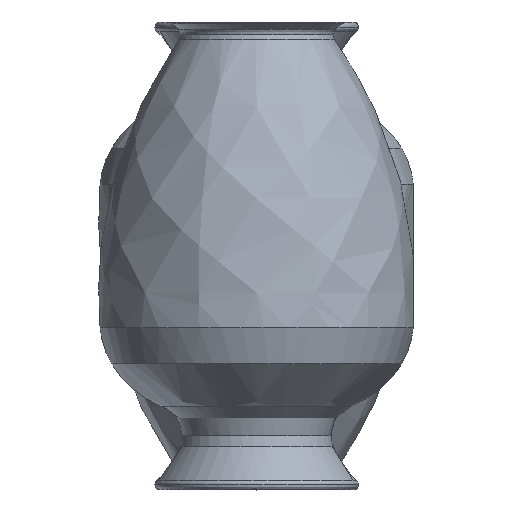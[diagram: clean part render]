
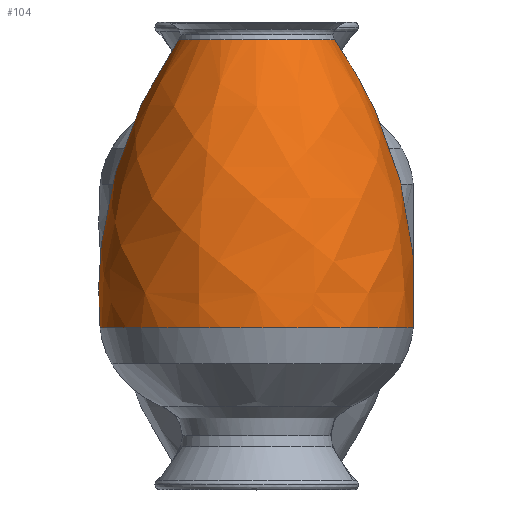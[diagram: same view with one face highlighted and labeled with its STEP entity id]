
A CAD part, front view. The second image highlights one B-rep face of the part: STEP entity #104.
In plain terms, the highlighted free-form (B-spline) face has degree [2, 2] with [9, 5] control points.
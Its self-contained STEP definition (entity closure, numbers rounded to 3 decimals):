
#104=ADVANCED_FACE('',(#198),#1229,.T.);
#198=FACE_OUTER_BOUND('',#292,.T.);
#292=EDGE_LOOP('',(#567,#568,#569,#570));
#567=ORIENTED_EDGE('',*,*,#834,.F.);
#568=ORIENTED_EDGE('',*,*,#836,.T.);
#569=ORIENTED_EDGE('',*,*,#837,.T.);
#570=ORIENTED_EDGE('',*,*,#838,.T.);
#834=EDGE_CURVE('',#1149,#1150,#1018,.T.);
#836=EDGE_CURVE('',#1149,#1151,#1020,.T.);
#837=EDGE_CURVE('',#1151,#1152,#1021,.T.);
#838=EDGE_CURVE('',#1152,#1150,#1022,.T.);
#1018=(
BOUNDED_CURVE()
B_SPLINE_CURVE(2,(#9367,#9368,#9369,#9370,#9371),.UNSPECIFIED.,.F.,.F.)
B_SPLINE_CURVE_WITH_KNOTS((3,2,3),(-65.495,-32.748,
0.),.UNSPECIFIED.)
CURVE()
GEOMETRIC_REPRESENTATION_ITEM()
RATIONAL_B_SPLINE_CURVE((1.,0.707,1.,0.707,1.))
REPRESENTATION_ITEM('')
);
#1020=(
BOUNDED_CURVE()
B_SPLINE_CURVE(2,(#9375,#9376,#9377),.UNSPECIFIED.,.F.,.F.)
B_SPLINE_CURVE_WITH_KNOTS((3,3),(0.,40.53),.UNSPECIFIED.)
CURVE()
GEOMETRIC_REPRESENTATION_ITEM()
RATIONAL_B_SPLINE_CURVE((1.,0.941,1.))
REPRESENTATION_ITEM('')
);
#1021=(
BOUNDED_CURVE()
B_SPLINE_CURVE(2,(#9378,#9379,#9380,#9381,#9382),.UNSPECIFIED.,.F.,.F.)
B_SPLINE_CURVE_WITH_KNOTS((3,2,3),(-32.558,-16.279,
0.),.UNSPECIFIED.)
CURVE()
GEOMETRIC_REPRESENTATION_ITEM()
RATIONAL_B_SPLINE_CURVE((1.,0.707,1.,0.707,1.))
REPRESENTATION_ITEM('')
);
#1022=(
BOUNDED_CURVE()
B_SPLINE_CURVE(2,(#9383,#9384,#9385),.UNSPECIFIED.,.F.,.F.)
B_SPLINE_CURVE_WITH_KNOTS((3,3),(-40.53,0.),.UNSPECIFIED.)
CURVE()
GEOMETRIC_REPRESENTATION_ITEM()
RATIONAL_B_SPLINE_CURVE((1.,0.941,1.))
REPRESENTATION_ITEM('')
);
#1149=VERTEX_POINT('',#9116);
#1150=VERTEX_POINT('',#9117);
#1151=VERTEX_POINT('',#9118);
#1152=VERTEX_POINT('',#9119);
#1229=(
BOUNDED_SURFACE()
B_SPLINE_SURFACE(2,2,((#6640,#6641,#6642,#6643,#6644),(#6645,#6646,#6647,
#6648,#6649),(#6650,#6651,#6652,#6653,#6654),(#6655,#6656,#6657,#6658,#6659),
(#6660,#6661,#6662,#6663,#6664),(#6665,#6666,#6667,#6668,#6669),(#6670,
#6671,#6672,#6673,#6674),(#6675,#6676,#6677,#6678,#6679),(#6680,#6681,#6682,
#6683,#6684)),.UNSPECIFIED.,.T.,.F.,.F.)
B_SPLINE_SURFACE_WITH_KNOTS((3,2,2,2,3),(3,2,3),(-235.194,-176.396,
-117.597,-58.799,0.),(0.,51.213,102.427),
 .UNSPECIFIED.)
GEOMETRIC_REPRESENTATION_ITEM()
RATIONAL_B_SPLINE_SURFACE(((1.,0.906,1.,0.906,1.),
(0.707,0.64,0.707,0.64,
0.707),(1.,0.906,1.,0.906,1.),(0.707,
0.64,0.707,0.64,0.707),
(1.,0.906,1.,0.906,1.),(0.707,0.64,
0.707,0.64,0.707),(1.,0.906,
1.,0.906,1.),(0.707,0.64,0.707,
0.64,0.707),(1.,0.906,1.,0.906,
1.)))
REPRESENTATION_ITEM('')
SURFACE()
);
#6640=CARTESIAN_POINT('',(1.523,-37.68,78.345));
#6641=CARTESIAN_POINT('',(1.523,-16.648,60.815));
#6642=CARTESIAN_POINT('',(1.523,-16.648,33.434));
#6643=CARTESIAN_POINT('',(1.523,-16.648,6.054));
#6644=CARTESIAN_POINT('',(1.523,-37.68,-11.476));
#6645=CARTESIAN_POINT('',(1.523,-37.68,78.345));
#6646=CARTESIAN_POINT('',(22.556,-16.648,60.815));
#6647=CARTESIAN_POINT('',(22.556,-16.648,33.434));
#6648=CARTESIAN_POINT('',(22.556,-16.648,6.054));
#6649=CARTESIAN_POINT('',(1.523,-37.68,-11.476));
#6650=CARTESIAN_POINT('',(1.523,-37.68,78.345));
#6651=CARTESIAN_POINT('',(22.556,-37.68,60.815));
#6652=CARTESIAN_POINT('',(22.556,-37.68,33.434));
#6653=CARTESIAN_POINT('',(22.556,-37.68,6.054));
#6654=CARTESIAN_POINT('',(1.523,-37.68,-11.476));
#6655=CARTESIAN_POINT('',(1.523,-37.68,78.345));
#6656=CARTESIAN_POINT('',(22.556,-58.713,60.815));
#6657=CARTESIAN_POINT('',(22.556,-58.713,33.434));
#6658=CARTESIAN_POINT('',(22.556,-58.713,6.054));
#6659=CARTESIAN_POINT('',(1.523,-37.68,-11.476));
#6660=CARTESIAN_POINT('',(1.523,-37.68,78.345));
#6661=CARTESIAN_POINT('',(1.523,-58.713,60.815));
#6662=CARTESIAN_POINT('',(1.523,-58.713,33.434));
#6663=CARTESIAN_POINT('',(1.523,-58.713,6.054));
#6664=CARTESIAN_POINT('',(1.523,-37.68,-11.476));
#6665=CARTESIAN_POINT('',(1.523,-37.68,78.345));
#6666=CARTESIAN_POINT('',(-19.509,-58.713,60.815));
#6667=CARTESIAN_POINT('',(-19.509,-58.713,33.434));
#6668=CARTESIAN_POINT('',(-19.509,-58.713,6.054));
#6669=CARTESIAN_POINT('',(1.523,-37.68,-11.476));
#6670=CARTESIAN_POINT('',(1.523,-37.68,78.345));
#6671=CARTESIAN_POINT('',(-19.509,-37.68,60.815));
#6672=CARTESIAN_POINT('',(-19.509,-37.68,33.434));
#6673=CARTESIAN_POINT('',(-19.509,-37.68,6.054));
#6674=CARTESIAN_POINT('',(1.523,-37.68,-11.476));
#6675=CARTESIAN_POINT('',(1.523,-37.68,78.345));
#6676=CARTESIAN_POINT('',(-19.509,-16.648,60.815));
#6677=CARTESIAN_POINT('',(-19.509,-16.648,33.434));
#6678=CARTESIAN_POINT('',(-19.509,-16.648,6.054));
#6679=CARTESIAN_POINT('',(1.523,-37.68,-11.476));
#6680=CARTESIAN_POINT('',(1.523,-37.68,78.345));
#6681=CARTESIAN_POINT('',(1.523,-16.648,60.815));
#6682=CARTESIAN_POINT('',(1.523,-16.648,33.434));
#6683=CARTESIAN_POINT('',(1.523,-16.648,6.054));
#6684=CARTESIAN_POINT('',(1.523,-37.68,-11.476));
#9116=CARTESIAN_POINT('',(22.371,-37.68,28.79));
#9117=CARTESIAN_POINT('',(-19.325,-37.68,28.79));
#9118=CARTESIAN_POINT('',(11.887,-37.68,67.105));
#9119=CARTESIAN_POINT('',(-8.84,-37.68,67.105));
#9367=CARTESIAN_POINT('',(22.371,-37.68,28.79));
#9368=CARTESIAN_POINT('',(22.371,-58.528,28.79));
#9369=CARTESIAN_POINT('',(1.523,-58.528,28.79));
#9370=CARTESIAN_POINT('',(-19.325,-58.528,28.79));
#9371=CARTESIAN_POINT('',(-19.325,-37.68,28.79));
#9375=CARTESIAN_POINT('',(22.371,-37.68,28.79));
#9376=CARTESIAN_POINT('',(24.048,-37.68,49.841));
#9377=CARTESIAN_POINT('',(11.887,-37.68,67.105));
#9378=CARTESIAN_POINT('',(11.887,-37.68,67.105));
#9379=CARTESIAN_POINT('',(11.887,-48.044,67.105));
#9380=CARTESIAN_POINT('',(1.523,-48.044,67.105));
#9381=CARTESIAN_POINT('',(-8.84,-48.044,67.105));
#9382=CARTESIAN_POINT('',(-8.84,-37.68,67.105));
#9383=CARTESIAN_POINT('',(-8.84,-37.68,67.105));
#9384=CARTESIAN_POINT('',(-21.002,-37.68,49.841));
#9385=CARTESIAN_POINT('',(-19.325,-37.68,28.79));
